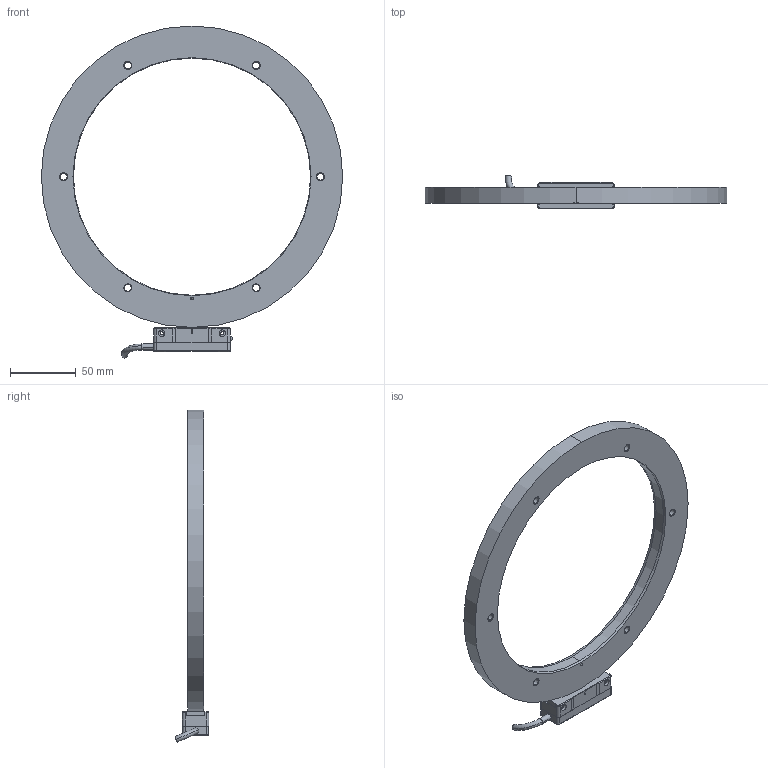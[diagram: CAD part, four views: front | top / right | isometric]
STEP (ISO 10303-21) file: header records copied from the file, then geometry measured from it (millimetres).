
FILE_DESCRIPTION (( 'STEP AP214' ), '1' );
FILE_NAME ('DHRx_SAR229_exposed.STEP', '2024-02-02T13:54:12', ( '' ), ( '' ), 'SwSTEP 2.0', 'SolidWorks 2022', '' );
FILE_SCHEMA (( 'AUTOMOTIVE_DESIGN' ));
Length unit declared in the file: millimetre
Products named in the file (1): DHRx_SAR229_exposed
Bounding box: 228.8 x 25.55 x 252.05 mm (x, y, z)
Volume: 203912.8 mm3; surface area: 54141.2 mm2
Topology: 2 solids, 2 shells, 2125 faces, 5779 edges, 3811 vertices
Faces by surface type: plane 1725, bspline 186, cylinder 146, cone 48, torus 18, sphere 2
Entity records: 97013 total; most frequent: CARTESIAN_POINT 20838, ORIENTED_EDGE 11528, DIRECTION 9685, EDGE_CURVE 5764, LINE 4971, VECTOR 4971, VERTEX_POINT 3810, AXIS2_PLACEMENT_3D 2357
